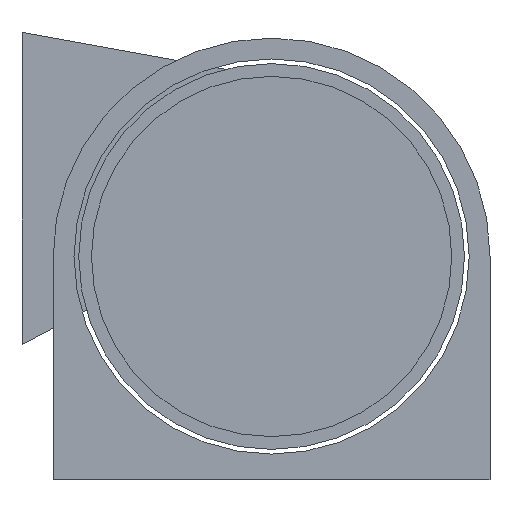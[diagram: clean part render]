
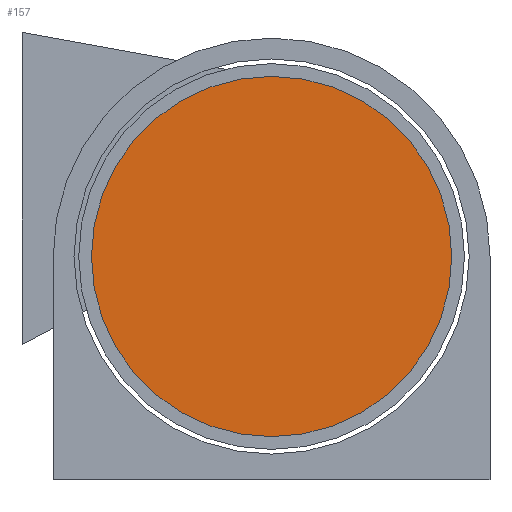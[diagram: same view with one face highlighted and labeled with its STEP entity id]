
A CAD part, front view. The second image highlights one B-rep face of the part: STEP entity #157.
In plain terms, the highlighted planar face has unit normal (0, -1, 0).
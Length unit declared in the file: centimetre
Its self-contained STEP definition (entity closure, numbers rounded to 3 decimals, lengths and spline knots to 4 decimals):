
#30 = CARTESIAN_POINT ( 'NONE',  ( 0., 0., -1.7325 ) ) ;
#46 = DIRECTION ( 'NONE',  ( 0., 0., 1. ) ) ;
#83 = EDGE_CURVE ( 'NONE', #127, #96, #528, .T. ) ;
#96 = VERTEX_POINT ( 'NONE', #30 ) ;
#119 = PLANE ( 'NONE',  #384 ) ;
#127 = VERTEX_POINT ( 'NONE', #188 ) ;
#156 = ORIENTED_EDGE ( 'NONE', *, *, #948, .F. ) ;
#157 = ADVANCED_FACE ( 'NONE', ( #686 ), #119, .F. ) ;
#188 = CARTESIAN_POINT ( 'NONE',  ( 0., 0., 1.7325 ) ) ;
#209 = DIRECTION ( 'NONE',  ( 0., 1., 0. ) ) ;
#229 = EDGE_LOOP ( 'NONE', ( #156, #751 ) ) ;
#287 = DIRECTION ( 'NONE',  ( 0., 1., 0. ) ) ;
#344 = DIRECTION ( 'NONE',  ( 0., 1., 0. ) ) ;
#356 = CARTESIAN_POINT ( 'NONE',  ( 0., 0., 0. ) ) ;
#384 = AXIS2_PLACEMENT_3D ( 'NONE', #915, #287, #46 ) ;
#396 = AXIS2_PLACEMENT_3D ( 'NONE', #681, #209, #830 ) ;
#438 = CIRCLE ( 'NONE', #396, 1.7325 ) ;
#509 = DIRECTION ( 'NONE',  ( 0., 0., -1. ) ) ;
#528 = CIRCLE ( 'NONE', #621, 1.7325 ) ;
#621 = AXIS2_PLACEMENT_3D ( 'NONE', #356, #344, #509 ) ;
#681 = CARTESIAN_POINT ( 'NONE',  ( 0., 0., 0. ) ) ;
#686 = FACE_OUTER_BOUND ( 'NONE', #229, .T. ) ;
#751 = ORIENTED_EDGE ( 'NONE', *, *, #83, .F. ) ;
#830 = DIRECTION ( 'NONE',  ( 0., 0., -1. ) ) ;
#915 = CARTESIAN_POINT ( 'NONE',  ( 0., 0., 0. ) ) ;
#948 = EDGE_CURVE ( 'NONE', #96, #127, #438, .T. ) ;
